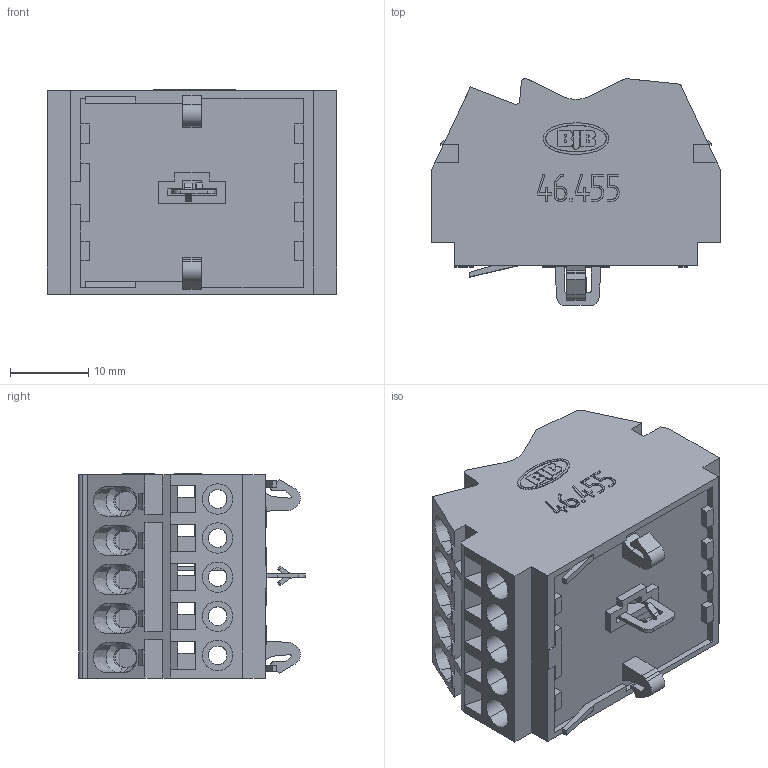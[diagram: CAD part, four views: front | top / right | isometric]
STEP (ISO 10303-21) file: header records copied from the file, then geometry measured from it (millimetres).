
FILE_DESCRIPTION((' '),'1');
FILE_NAME('00TYQ2TY02.stp','2015-01-07 T15:01:47',(''),(''),'STEP Interface 2013.192 by CT CoreTechnologie','3D_Evolution2013.192 by CT CoreTechnologie','');
FILE_SCHEMA(('AP203_CONFIGURATION_CONTROLLED_3D_DESIGN_OF_MECHANICAL_PARTS_AND_ASSEMBLIES_MIM_LF'));
Length unit declared in the file: millimetre
Products named in the file (3): 00TYQ2TY02; 00TYQ2TY02-1; 00TYQ2TY02-2
Assembly tree (2 placements, depth 2):
  00TYQ2TY02
    00TYQ2TY02-1
    00TYQ2TY02-2
Bounding box: 37 x 29 x 26.1 mm (x, y, z)
Volume: 9795.4 mm3; surface area: 12782.5 mm2
Topology: 2 solids, 2 shells, 958 faces, 2654 edges, 1719 vertices
Faces by surface type: plane 662, cylinder 161, bspline 135
Entity records: 45041 total; most frequent: CARTESIAN_POINT 13131, ORIENTED_EDGE 5308, DIRECTION 4581, EDGE_CURVE 2654, VECTOR 2103, LINE 2103, VERTEX_POINT 1719, AXIS2_PLACEMENT_3D 1239
